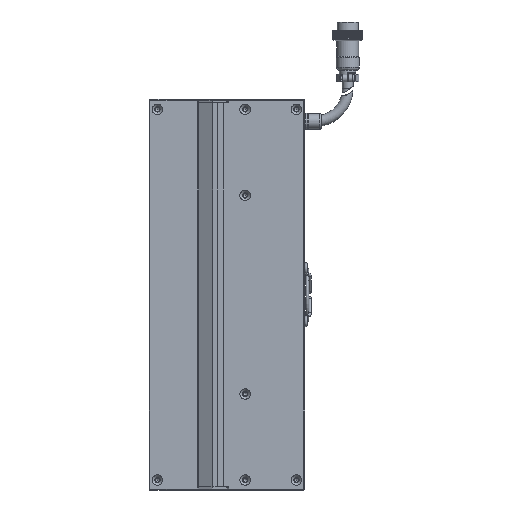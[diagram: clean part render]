
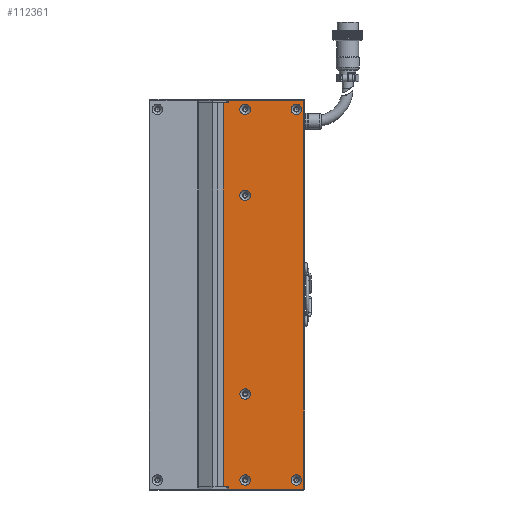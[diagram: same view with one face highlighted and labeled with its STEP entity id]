
A CAD part, left-side view. The second image highlights one B-rep face of the part: STEP entity #112361.
In plain terms, the highlighted planar face has unit normal (-1, 0, 0).
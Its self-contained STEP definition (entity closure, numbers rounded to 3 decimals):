
#1127 = FACE_BOUND ( 'NONE', #110410, .T. ) ;
#1256 = CARTESIAN_POINT ( 'NONE',  ( -24.998, -72., -117.5 ) ) ;
#1449 = ORIENTED_EDGE ( 'NONE', *, *, #60313, .F. ) ;
#3967 = ORIENTED_EDGE ( 'NONE', *, *, #39100, .T. ) ;
#4702 = CARTESIAN_POINT ( 'NONE',  ( -24.998, -26.5, 117.5 ) ) ;
#5558 = VECTOR ( 'NONE', #89740, 1000. ) ;
#5601 = CARTESIAN_POINT ( 'NONE',  ( -24.998, -72.5, -117.5 ) ) ;
#6739 = EDGE_CURVE ( 'NONE', #17808, #17808, #40648, .T. ) ;
#9220 = EDGE_LOOP ( 'NONE', ( #35996 ) ) ;
#9710 = DIRECTION ( 'NONE',  ( 0., 0., 1. ) ) ;
#11346 = AXIS2_PLACEMENT_3D ( 'NONE', #75874, #28716, #12248 ) ;
#12248 = DIRECTION ( 'NONE',  ( 0., 0., 1. ) ) ;
#13340 = EDGE_CURVE ( 'NONE', #63672, #63672, #44396, .T. ) ;
#13774 = ORIENTED_EDGE ( 'NONE', *, *, #74302, .F. ) ;
#13940 = EDGE_LOOP ( 'NONE', ( #24017 ) ) ;
#14674 = CIRCLE ( 'NONE', #23046, 3.15 ) ;
#15763 = AXIS2_PLACEMENT_3D ( 'NONE', #117534, #107877, #18245 ) ;
#17808 = VERTEX_POINT ( 'NONE', #79793 ) ;
#18123 = DIRECTION ( 'NONE',  ( 0., 0., 1. ) ) ;
#18245 = DIRECTION ( 'NONE',  ( 0., 0., 1. ) ) ;
#19742 = LINE ( 'NONE', #110172, #91235 ) ;
#20609 = CARTESIAN_POINT ( 'NONE',  ( -24.998, -26.5, -117.5 ) ) ;
#20696 = DIRECTION ( 'NONE',  ( -1., 0., 0. ) ) ;
#21861 = AXIS2_PLACEMENT_3D ( 'NONE', #62270, #35787, #109878 ) ;
#22785 = VECTOR ( 'NONE', #117631, 1000. ) ;
#22984 = CARTESIAN_POINT ( 'NONE',  ( -24.998, -72.5, -116. ) ) ;
#23046 = AXIS2_PLACEMENT_3D ( 'NONE', #97648, #24825, #18123 ) ;
#23354 = VERTEX_POINT ( 'NONE', #61068 ) ;
#24017 = ORIENTED_EDGE ( 'NONE', *, *, #6739, .F. ) ;
#24566 = CIRCLE ( 'NONE', #21861, 3.15 ) ;
#24825 = DIRECTION ( 'NONE',  ( -1., 0., 0. ) ) ;
#25280 = FACE_BOUND ( 'NONE', #114234, .T. ) ;
#26012 = VERTEX_POINT ( 'NONE', #1256 ) ;
#26423 = VERTEX_POINT ( 'NONE', #20609 ) ;
#27121 = VERTEX_POINT ( 'NONE', #56562 ) ;
#27565 = ORIENTED_EDGE ( 'NONE', *, *, #35947, .T. ) ;
#27687 = LINE ( 'NONE', #5601, #33351 ) ;
#28716 = DIRECTION ( 'NONE',  ( -1., 0., 0. ) ) ;
#28769 = VERTEX_POINT ( 'NONE', #4702 ) ;
#30764 = EDGE_CURVE ( 'NONE', #23354, #23354, #14674, .T. ) ;
#31077 = FACE_BOUND ( 'NONE', #101403, .T. ) ;
#31409 = CIRCLE ( 'NONE', #80949, 3.15 ) ;
#32021 = VERTEX_POINT ( 'NONE', #82220 ) ;
#33351 = VECTOR ( 'NONE', #43153, 1000. ) ;
#35003 = CARTESIAN_POINT ( 'NONE',  ( -24.998, -67.5, 115.15 ) ) ;
#35638 = CARTESIAN_POINT ( 'NONE',  ( -24.998, -26.5, -109. ) ) ;
#35775 = VECTOR ( 'NONE', #82461, 1000. ) ;
#35787 = DIRECTION ( 'NONE',  ( -1., 0., 0. ) ) ;
#35947 = EDGE_CURVE ( 'NONE', #27121, #26423, #47341, .T. ) ;
#35996 = ORIENTED_EDGE ( 'NONE', *, *, #13340, .F. ) ;
#36059 = ORIENTED_EDGE ( 'NONE', *, *, #41347, .F. ) ;
#36465 = CARTESIAN_POINT ( 'NONE',  ( -24.998, -26.5, 116. ) ) ;
#37187 = EDGE_CURVE ( 'NONE', #32021, #32021, #31409, .T. ) ;
#39100 = EDGE_CURVE ( 'NONE', #117114, #28769, #64514, .T. ) ;
#40648 = CIRCLE ( 'NONE', #11346, 3.15 ) ;
#41240 = VECTOR ( 'NONE', #9710, 1000. ) ;
#41347 = EDGE_CURVE ( 'NONE', #116697, #52174, #19742, .T. ) ;
#42022 = EDGE_CURVE ( 'NONE', #116697, #27121, #105573, .T. ) ;
#42545 = VERTEX_POINT ( 'NONE', #36465 ) ;
#43153 = DIRECTION ( 'NONE',  ( 0., -1., 0. ) ) ;
#44176 = CARTESIAN_POINT ( 'NONE',  ( -24.998, -72.5, 116. ) ) ;
#44396 = CIRCLE ( 'NONE', #70056, 3.15 ) ;
#44877 = EDGE_CURVE ( 'NONE', #28769, #42545, #73174, .T. ) ;
#47341 = LINE ( 'NONE', #35638, #35775 ) ;
#48057 = AXIS2_PLACEMENT_3D ( 'NONE', #44176, #99362, #88570 ) ;
#49239 = EDGE_CURVE ( 'NONE', #26012, #117114, #114340, .T. ) ;
#51763 = ORIENTED_EDGE ( 'NONE', *, *, #83877, .T. ) ;
#51857 = VERTEX_POINT ( 'NONE', #65100 ) ;
#52174 = VERTEX_POINT ( 'NONE', #102508 ) ;
#52579 = CARTESIAN_POINT ( 'NONE',  ( -24.998, -72.5, 116. ) ) ;
#53773 = CARTESIAN_POINT ( 'NONE',  ( -24.998, -23.25, -116. ) ) ;
#56562 = CARTESIAN_POINT ( 'NONE',  ( -24.998, -26.5, -116. ) ) ;
#56800 = DIRECTION ( 'NONE',  ( 0., 0., 1. ) ) ;
#56874 = FACE_BOUND ( 'NONE', #13940, .T. ) ;
#57404 = DIRECTION ( 'NONE',  ( 0., 0., 1. ) ) ;
#58722 = DIRECTION ( 'NONE',  ( 0., -1., 0. ) ) ;
#60313 = EDGE_CURVE ( 'NONE', #52174, #42545, #69976, .T. ) ;
#61068 = CARTESIAN_POINT ( 'NONE',  ( -24.998, -36.5, -108.85 ) ) ;
#62041 = VERTEX_POINT ( 'NONE', #111487 ) ;
#62070 = ORIENTED_EDGE ( 'NONE', *, *, #44877, .T. ) ;
#62270 = CARTESIAN_POINT ( 'NONE',  ( -24.998, -36.5, 60. ) ) ;
#62417 = CARTESIAN_POINT ( 'NONE',  ( -24.998, -72.5, 117.5 ) ) ;
#63672 = VERTEX_POINT ( 'NONE', #35003 ) ;
#64514 = LINE ( 'NONE', #62417, #22785 ) ;
#64965 = CARTESIAN_POINT ( 'NONE',  ( -24.998, -72., 116. ) ) ;
#65100 = CARTESIAN_POINT ( 'NONE',  ( -24.998, -36.5, 63.15 ) ) ;
#65626 = VECTOR ( 'NONE', #58722, 1000. ) ;
#66220 = CARTESIAN_POINT ( 'NONE',  ( -24.998, -67.5, -112. ) ) ;
#69976 = LINE ( 'NONE', #52579, #5558 ) ;
#70056 = AXIS2_PLACEMENT_3D ( 'NONE', #75541, #20696, #56800 ) ;
#70611 = PLANE ( 'NONE',  #48057 ) ;
#72538 = DIRECTION ( 'NONE',  ( 0., 0., 1. ) ) ;
#73174 = LINE ( 'NONE', #98719, #84572 ) ;
#74302 = EDGE_CURVE ( 'NONE', #62041, #62041, #93715, .T. ) ;
#75382 = DIRECTION ( 'NONE',  ( -1., 0., 0. ) ) ;
#75541 = CARTESIAN_POINT ( 'NONE',  ( -24.998, -67.5, 112. ) ) ;
#75874 = CARTESIAN_POINT ( 'NONE',  ( -24.998, -36.5, 112. ) ) ;
#77903 = EDGE_LOOP ( 'NONE', ( #84386, #27565, #51763, #118450, #3967, #62070, #1449, #36059 ) ) ;
#79275 = EDGE_LOOP ( 'NONE', ( #13774 ) ) ;
#79793 = CARTESIAN_POINT ( 'NONE',  ( -24.998, -36.5, 115.15 ) ) ;
#80172 = ORIENTED_EDGE ( 'NONE', *, *, #37187, .F. ) ;
#80949 = AXIS2_PLACEMENT_3D ( 'NONE', #66220, #75382, #57404 ) ;
#82220 = CARTESIAN_POINT ( 'NONE',  ( -24.998, -67.5, -108.85 ) ) ;
#82461 = DIRECTION ( 'NONE',  ( 0., 0., -1. ) ) ;
#83877 = EDGE_CURVE ( 'NONE', #26423, #26012, #27687, .T. ) ;
#84386 = ORIENTED_EDGE ( 'NONE', *, *, #42022, .T. ) ;
#84572 = VECTOR ( 'NONE', #108392, 1000. ) ;
#86848 = FACE_BOUND ( 'NONE', #79275, .T. ) ;
#88570 = DIRECTION ( 'NONE',  ( 0., 0., -1. ) ) ;
#89590 = CARTESIAN_POINT ( 'NONE',  ( -24.998, -72., 117.5 ) ) ;
#89740 = DIRECTION ( 'NONE',  ( 0., -1., 0. ) ) ;
#91235 = VECTOR ( 'NONE', #72538, 1000. ) ;
#93715 = CIRCLE ( 'NONE', #15763, 3.15 ) ;
#95465 = FACE_OUTER_BOUND ( 'NONE', #77903, .T. ) ;
#97000 = ORIENTED_EDGE ( 'NONE', *, *, #109966, .F. ) ;
#97648 = CARTESIAN_POINT ( 'NONE',  ( -24.998, -36.5, -112. ) ) ;
#98304 = FACE_BOUND ( 'NONE', #9220, .T. ) ;
#98719 = CARTESIAN_POINT ( 'NONE',  ( -24.998, -26.5, 109. ) ) ;
#99362 = DIRECTION ( 'NONE',  ( 1., 0., 0. ) ) ;
#101403 = EDGE_LOOP ( 'NONE', ( #97000 ) ) ;
#102508 = CARTESIAN_POINT ( 'NONE',  ( -24.998, -23.25, 116. ) ) ;
#105573 = LINE ( 'NONE', #22984, #65626 ) ;
#107877 = DIRECTION ( 'NONE',  ( -1., 0., 0. ) ) ;
#108392 = DIRECTION ( 'NONE',  ( 0., 0., -1. ) ) ;
#109878 = DIRECTION ( 'NONE',  ( 0., 0., 1. ) ) ;
#109966 = EDGE_CURVE ( 'NONE', #51857, #51857, #24566, .T. ) ;
#110172 = CARTESIAN_POINT ( 'NONE',  ( -24.998, -23.25, -116. ) ) ;
#110410 = EDGE_LOOP ( 'NONE', ( #115568 ) ) ;
#111487 = CARTESIAN_POINT ( 'NONE',  ( -24.998, -36.5, -56.85 ) ) ;
#112361 = ADVANCED_FACE ( 'NONE', ( #25280, #1127, #98304, #31077, #56874, #86848, #95465 ), #70611, .F. ) ;
#114234 = EDGE_LOOP ( 'NONE', ( #80172 ) ) ;
#114340 = LINE ( 'NONE', #64965, #41240 ) ;
#115568 = ORIENTED_EDGE ( 'NONE', *, *, #30764, .F. ) ;
#116697 = VERTEX_POINT ( 'NONE', #53773 ) ;
#117114 = VERTEX_POINT ( 'NONE', #89590 ) ;
#117534 = CARTESIAN_POINT ( 'NONE',  ( -24.998, -36.5, -60. ) ) ;
#117631 = DIRECTION ( 'NONE',  ( 0., 1., 0. ) ) ;
#118450 = ORIENTED_EDGE ( 'NONE', *, *, #49239, .T. ) ;
